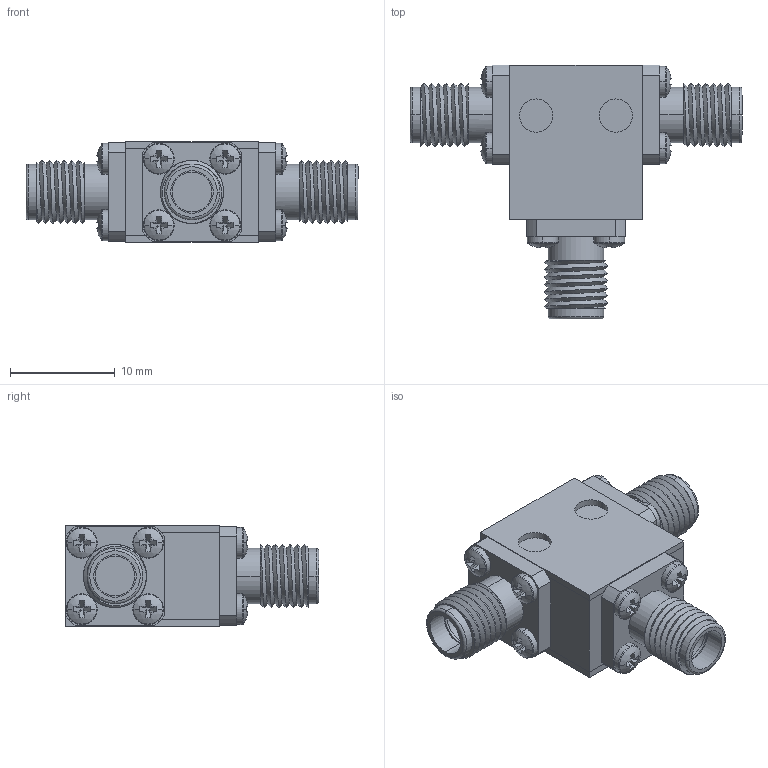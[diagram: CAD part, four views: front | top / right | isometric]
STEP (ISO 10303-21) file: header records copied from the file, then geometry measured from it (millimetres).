
FILE_DESCRIPTION (( 'STEP AP214' ), '1' );
FILE_NAME ('Package 11 Circ FFF.step', '2021-12-01T20:56:56', ( '' ), ( '' ), 'SwSTEP 2.0', 'SolidWorks 2016', '' );
FILE_SCHEMA (( 'AUTOMOTIVE_DESIGN' ));
Length unit declared in the file: inch
Products named in the file (5): Package 11; Delta SMA-Female 0.375 flange Threaded; Package Size 11; Package 11 Circ FFF; pan cross head_ai_CR-PHMS 0.06-80x0.125x0.125-N
Assembly tree (17 placements, depth 2):
  Package 11 Circ FFF
    Package Size 11
    Package 11
    Delta SMA-Female 0.375 flange Threaded  x3
    pan cross head_ai_CR-PHMS 0.06-80x0.125x0.125-N  x12
Bounding box: 31.75 x 24.26 x 9.65 mm (x, y, z)
Volume: 2515.8 mm3; surface area: 3833.5 mm2
Topology: 17 solids, 17 shells, 417 faces, 945 edges, 583 vertices
Faces by surface type: plane 232, cylinder 122, torus 30, sphere 24, bspline 9
Entity records: 3581 total; most frequent: CARTESIAN_POINT 1181, DIRECTION 499, ORIENTED_EDGE 410, EDGE_CURVE 205, AXIS2_PLACEMENT_3D 199, VERTEX_POINT 131, EDGE_LOOP 108, LINE 101
